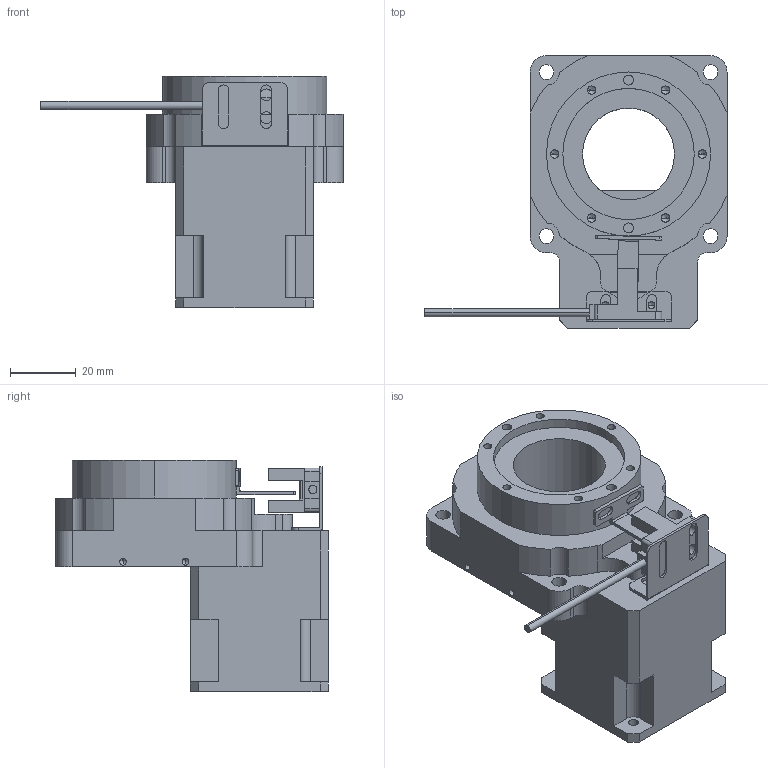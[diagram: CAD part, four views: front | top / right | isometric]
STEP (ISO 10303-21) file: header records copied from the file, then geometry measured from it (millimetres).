
FILE_DESCRIPTION (( 'STEP AP203' ), '1' );
FILE_NAME ('RTN60-5K-5-23-31-3(42²½½ø).STEP', '2024-05-21T07:02:52', ( '' ), ( '' ), 'SwSTEP 2.0', 'SolidWorks 2023', '' );
FILE_SCHEMA (( 'CONFIG_CONTROL_DESIGN' ));
Length unit declared in the file: millimetre
Products named in the file (1): RTN60-5K-5-23-31-3(42步进)
Bounding box: 92.01 x 83 x 70.5 mm (x, y, z)
Volume: 142973.9 mm3; surface area: 30318.9 mm2
Topology: 4 solids, 6 shells, 288 faces, 774 edges, 492 vertices
Faces by surface type: plane 137, cylinder 123, cone 28
Entity records: 8967 total; most frequent: DIRECTION 1574, CARTESIAN_POINT 1527, ORIENTED_EDGE 1492, EDGE_CURVE 746, AXIS2_PLACEMENT_3D 539, VECTOR 496, LINE 496, VERTEX_POINT 492
